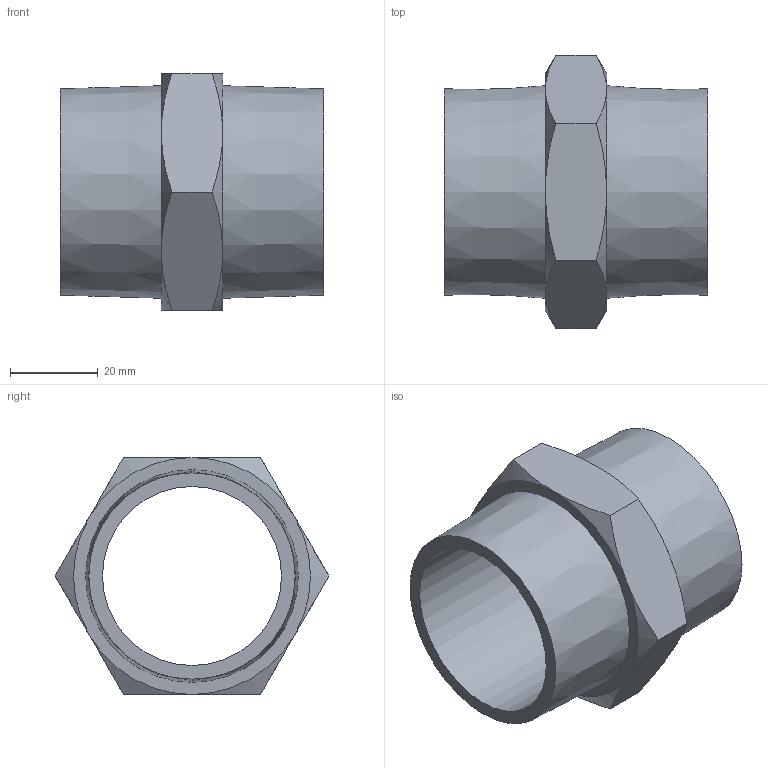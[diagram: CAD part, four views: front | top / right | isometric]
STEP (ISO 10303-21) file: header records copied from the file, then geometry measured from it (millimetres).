
FILE_DESCRIPTION(/* description */ (''),/* implementation_level */ '2;1');
FILE_NAME(/* name */ 'C:\Users\D\Documents\Inventor\各種小物\JIS\ニップル\1 1／2.stp',/* time_stamp */ '2022-06-22T15:38:29+09:00',/* author */ ('D'),/* organization */ (''),/* preprocessor_version */ 'ST-DEVELOPER v18',/* originating_system */ 'Autodesk Inventor 2020',/* authorisation */ '');
FILE_SCHEMA (('AUTOMOTIVE_DESIGN { 1 0 10303 214 3 1 1 }'));
Length unit declared in the file: millimetre
Products named in the file (1): 1／4
Bounding box: 60 x 62.35 x 54 mm (x, y, z)
Volume: 38862.1 mm3; surface area: 19193.9 mm2
Topology: 1 solids, 1 shells, 25 faces, 55 edges, 34 vertices
Faces by surface type: cone 14, plane 10, cylinder 1
Full cylindrical faces by diameter (mm): 40.803 x1
Entity records: 708 total; most frequent: CARTESIAN_POINT 163, ORIENTED_EDGE 110, DIRECTION 105, EDGE_CURVE 55, AXIS2_PLACEMENT_3D 48, VERTEX_POINT 34, EDGE_LOOP 29, FACE_OUTER_BOUND 25
